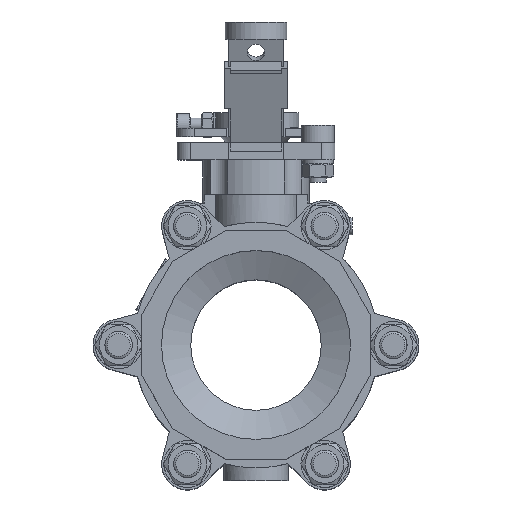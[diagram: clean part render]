
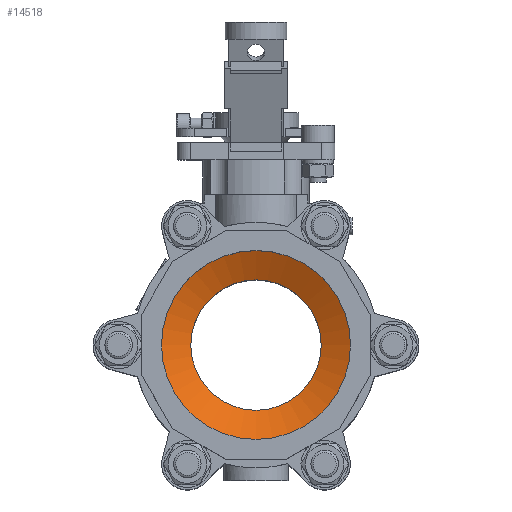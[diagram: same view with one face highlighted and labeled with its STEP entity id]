
A CAD part, top view. The second image highlights one B-rep face of the part: STEP entity #14518.
In plain terms, the highlighted conical face has half-angle 65 degrees and reference radius 27.518 mm.
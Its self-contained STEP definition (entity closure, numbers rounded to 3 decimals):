
#130=CONICAL_SURFACE('',#15433,27.518,1.134);
#1469=FACE_OUTER_BOUND('',#2278,.T.);
#2278=EDGE_LOOP('',(#11041,#11042,#11043,#11044,#11045,#11046,#11047));
#3097=CIRCLE('',#15434,38.);
#3098=CIRCLE('',#15435,38.);
#3099=CIRCLE('',#15436,38.);
#3100=CIRCLE('',#15437,55.036);
#3101=CIRCLE('',#15438,55.036);
#4094=LINE('',#22666,#5327);
#5327=VECTOR('',#17726,27.518);
#6619=VERTEX_POINT('',#22659);
#6620=VERTEX_POINT('',#22660);
#6621=VERTEX_POINT('',#22662);
#6622=VERTEX_POINT('',#22665);
#6623=VERTEX_POINT('',#22667);
#8269=EDGE_CURVE('',#6619,#6620,#3097,.T.);
#8270=EDGE_CURVE('',#6621,#6619,#3098,.T.);
#8271=EDGE_CURVE('',#6620,#6621,#3099,.T.);
#8272=EDGE_CURVE('',#6620,#6622,#4094,.T.);
#8273=EDGE_CURVE('',#6622,#6623,#3100,.T.);
#8274=EDGE_CURVE('',#6623,#6622,#3101,.T.);
#11041=ORIENTED_EDGE('',*,*,#8269,.F.);
#11042=ORIENTED_EDGE('',*,*,#8270,.F.);
#11043=ORIENTED_EDGE('',*,*,#8271,.F.);
#11044=ORIENTED_EDGE('',*,*,#8272,.T.);
#11045=ORIENTED_EDGE('',*,*,#8273,.T.);
#11046=ORIENTED_EDGE('',*,*,#8274,.T.);
#11047=ORIENTED_EDGE('',*,*,#8272,.F.);
#14518=ADVANCED_FACE('',(#1469),#130,.F.);
#15433=AXIS2_PLACEMENT_3D('',#22658,#17718,#17719);
#15434=AXIS2_PLACEMENT_3D('',#22661,#17720,#17721);
#15435=AXIS2_PLACEMENT_3D('',#22663,#17722,#17723);
#15436=AXIS2_PLACEMENT_3D('',#22664,#17724,#17725);
#15437=AXIS2_PLACEMENT_3D('',#22668,#17727,#17728);
#15438=AXIS2_PLACEMENT_3D('',#22669,#17729,#17730);
#17718=DIRECTION('center_axis',(0.,0.,1.));
#17719=DIRECTION('ref_axis',(-0.866,0.5,0.));
#17720=DIRECTION('center_axis',(0.,0.,1.));
#17721=DIRECTION('ref_axis',(0.866,-0.5,0.));
#17722=DIRECTION('center_axis',(0.,0.,1.));
#17723=DIRECTION('ref_axis',(0.866,-0.5,0.));
#17724=DIRECTION('center_axis',(0.,0.,1.));
#17725=DIRECTION('ref_axis',(0.866,-0.5,0.));
#17726=DIRECTION('',(0.785,-0.453,0.423));
#17727=DIRECTION('center_axis',(0.,0.,1.));
#17728=DIRECTION('ref_axis',(-0.866,0.5,0.));
#17729=DIRECTION('center_axis',(0.,0.,1.));
#17730=DIRECTION('ref_axis',(-0.866,0.5,0.));
#22658=CARTESIAN_POINT('Origin',(-13.255,-6.54,53.168));
#22659=CARTESIAN_POINT('',(-46.164,12.46,58.056));
#22660=CARTESIAN_POINT('',(19.654,-25.54,58.056));
#22661=CARTESIAN_POINT('Origin',(-13.255,-6.54,58.056));
#22662=CARTESIAN_POINT('',(24.745,-6.54,58.056));
#22663=CARTESIAN_POINT('Origin',(-13.255,-6.54,58.056));
#22664=CARTESIAN_POINT('Origin',(-13.255,-6.54,58.056));
#22665=CARTESIAN_POINT('',(34.408,-34.058,66.));
#22666=CARTESIAN_POINT('',(10.576,-20.299,53.168));
#22667=CARTESIAN_POINT('',(-60.917,20.978,66.));
#22668=CARTESIAN_POINT('Origin',(-13.255,-6.54,66.));
#22669=CARTESIAN_POINT('Origin',(-13.255,-6.54,66.));
